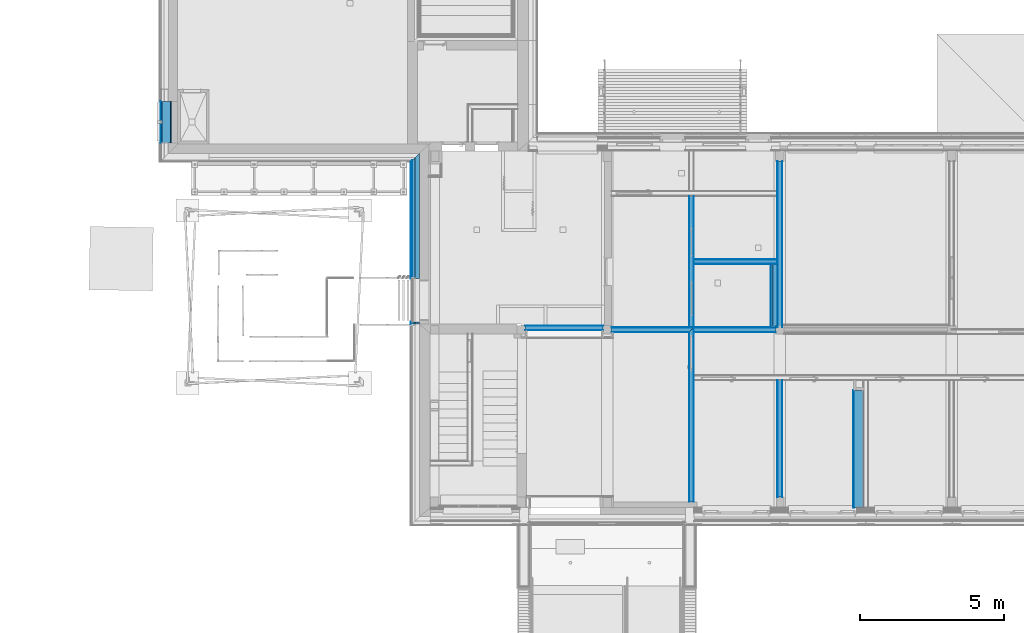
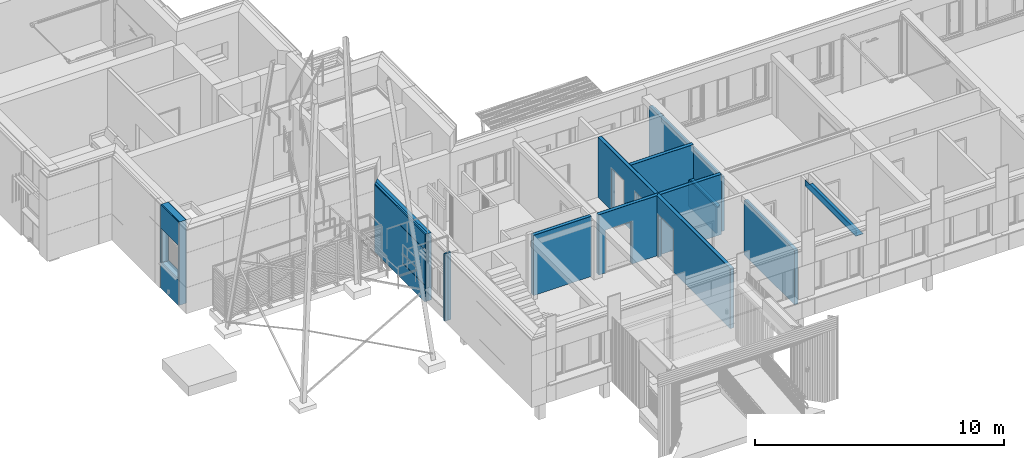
# One storey, part 31 of 418: 40 building element parts, 14 openings, 14 elements without a shape of their own.
"""IFC2X3 building model written with IfcOpenShell, lengths in millimetres."""

from ifc_helpers import new_model, entity, si_unit, converted_unit, derived_unit, money_unit, direction, frame, origin_with_axes, origin_2d_with_axis, place, context, subcontext, project, spatial, polyline, rectangle, outline, extrude, material, type_object, element, aggregate, save


model = new_model("IFC2X3")

# Units and contexts
model_context = context("Model", 3, precision=0.01, world=origin_with_axes(), true_north=direction((0.0, 1.0)))
body_context = subcontext(model_context, "Body", "Model", "MODEL_VIEW")
ifc_project = project(units=[si_unit("LENGTHUNIT", "METRE", prefix="MILLI"), si_unit("AREAUNIT", "SQUARE_METRE"), si_unit("VOLUMEUNIT", "CUBIC_METRE"), converted_unit("PLANEANGLEUNIT", "DEGREE", entity("IfcPlaneAngleMeasure", 0.0174532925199), si_unit("PLANEANGLEUNIT", "RADIAN"), dimensions=[0, 0, 0, 0, 0, 0, 0]), si_unit("SOLIDANGLEUNIT", "STERADIAN"), money_unit("EUR"), converted_unit("TIMEUNIT", "Year", entity("IfcTimeMeasure", 31556926.0), si_unit("TIMEUNIT", "SECOND"), dimensions=[0, 0, 1, 0, 0, 0, 0]), si_unit("MASSUNIT", "GRAM", prefix="KILO"), si_unit("THERMODYNAMICTEMPERATUREUNIT", "DEGREE_CELSIUS"), si_unit("LUMINOUSINTENSITYUNIT", "LUMEN"), si_unit("ENERGYUNIT", "JOULE", prefix="MEGA"), derived_unit("THERMALCONDUCTANCEUNIT", [(si_unit("POWERUNIT", "WATT"), 1), (si_unit("LENGTHUNIT", "METRE"), -1), (si_unit("THERMODYNAMICTEMPERATUREUNIT", "KELVIN"), -1)]), derived_unit("SPECIFICHEATCAPACITYUNIT", [(si_unit("ENERGYUNIT", "JOULE"), 1), (si_unit("MASSUNIT", "GRAM", prefix="KILO"), -1), (si_unit("THERMODYNAMICTEMPERATUREUNIT", "KELVIN"), -1)]), derived_unit("MASSDENSITYUNIT", [(si_unit("MASSUNIT", "GRAM", prefix="KILO"), 1), (si_unit("VOLUMEUNIT", "CUBIC_METRE"), -1)])], contexts=[model_context])

# Site, building, storey
site_placement = place(None, origin_with_axes())
site = spatial("IfcSite", under=ifc_project, at=site_placement, Name="Paldiski mnt 245/1, Tallinn, Harjumaa", CompositionType="COMPLEX")
building_placement = place(site_placement, origin_with_axes())
building = spatial("IfcBuilding", under=site, at=building_placement, Name="RKAS Hoone üldnimetus (kasutust iseloomustav) -> IFC Project Manager -> SOLIBRI", CompositionType="ELEMENT")
storey_placement = place(building_placement, origin_with_axes())
storey = spatial("IfcBuildingStorey", under=building, at=storey_placement, Name="Esimene korrus", CompositionType="ELEMENT", Elevation=0.0)

# Wall, building element parts
wall_type_1 = type_object("IfcWallType", Name="SS-04 170", PredefinedType="NOTDEFINED")
wall_1_placement = place(storey_placement, frame((-35440.0, -4045.0, 0.0), z_axis=(0.0, 0.0, 1.0), x_axis=(-1.0, 0.0, 0.0)))
wall_1 = element("IfcWall", 1, at=wall_1_placement, inside=storey, type_object=wall_type_1, Name="SS-04")
ifc_material_1 = material(Name="Krohv")
building_element_part_1_placement = place(wall_1_placement, origin_with_axes())
building_element_part_1 = element("IfcBuildingElementPart", 2, at=building_element_part_1_placement, material=ifc_material_1, Name="Krohv", context=body_context, shape_type="SweptSolid", body=[
    extrude(outline(polyline([(85.0, -10.0), (2990.00008941, -10.0), (2990.00008941, 0.0), (85.0, 0.0), (85.0, -10.0)])), origin_with_axes(), (0.0, 0.0, 1.0), 2950.0),
])
ifc_material_2 = material(Name="FIBO 5")
building_element_part_2_placement = place(wall_1_placement, origin_with_axes())
building_element_part_2 = element("IfcBuildingElementPart", 3, at=building_element_part_2_placement, material=ifc_material_2, Name="FIBO 5", context=body_context, shape_type="SweptSolid", body=[
    extrude(outline(polyline([(85.0, -160.0), (2990.00008941, -160.0), (2990.00008941, -10.0), (85.0, -10.0), (85.0, -160.0)])), origin_with_axes(), (0.0, 0.0, 1.0), 2950.0),
])
building_element_part_3_placement = place(wall_1_placement, origin_with_axes())
building_element_part_3 = element("IfcBuildingElementPart", 4, at=building_element_part_3_placement, material=ifc_material_1, Name="Krohv", context=body_context, shape_type="SweptSolid", body=[
    extrude(outline(polyline([(85.0, -170.0), (2990.00008941, -170.0), (2990.00008941, -160.0), (85.0, -160.0), (85.0, -170.0)])), origin_with_axes(), (0.0, 0.0, 1.0), 2950.0),
])
aggregate(wall_1, [building_element_part_1, building_element_part_2, building_element_part_3])

wall_2_placement = place(storey_placement, frame((-35590.0, -6330.0, 0.0), z_axis=(0.0, 0.0, 1.0), x_axis=(-1.0, 0.0, 0.0)))
wall_2 = element("IfcWall", 5, at=wall_2_placement, inside=storey, type_object=wall_type_1, Name="SS-04")
building_element_part_4_placement = place(wall_2_placement, origin_with_axes())
building_element_part_4 = element("IfcBuildingElementPart", 6, at=building_element_part_4_placement, material=ifc_material_1, Name="Krohv", context=body_context, shape_type="SweptSolid", body=[
    extrude(outline(polyline([(0.0, -85.0), (2840.00008941, -85.0), (2840.00008941, -75.0), (0.0, -75.0), (0.0, -85.0)])), origin_with_axes(), (0.0, 0.0, 1.0), 2950.0),
])
building_element_part_5_placement = place(wall_2_placement, origin_with_axes())
building_element_part_5 = element("IfcBuildingElementPart", 7, at=building_element_part_5_placement, material=ifc_material_2, Name="FIBO 5", context=body_context, shape_type="SweptSolid", body=[
    extrude(outline(polyline([(0.0, -75.0), (2840.00008941, -75.0), (2840.00008941, 75.0), (0.0, 75.0), (0.0, -75.0)])), origin_with_axes(), (0.0, 0.0, 1.0), 2950.0),
])
building_element_part_6_placement = place(wall_2_placement, origin_with_axes())
building_element_part_6 = element("IfcBuildingElementPart", 8, at=building_element_part_6_placement, material=ifc_material_1, Name="Krohv", context=body_context, shape_type="SweptSolid", body=[
    extrude(outline(polyline([(0.0, 75.0), (2840.00008941, 75.0), (2840.00008941, 85.0), (0.0, 85.0), (0.0, 75.0)])), origin_with_axes(), (0.0, 0.0, 1.0), 2950.0),
])
aggregate(wall_2, [building_element_part_4, building_element_part_5, building_element_part_6])

# Wall, opening, building element parts
wall_3_placement = place(storey_placement, frame((-38600.0000894, -12310.0840871, 0.0), z_axis=(0.0, 0.0, 1.0), x_axis=(0.0, 1.0, 0.0)))
wall_3 = element("IfcWall", 9, at=wall_3_placement, inside=storey, type_object=wall_type_1, Name="SS-04")
opening_1_placement = place(wall_3_placement, frame((5170.08413022, 0.0, 0.0), z_axis=(0.0, 0.0, 1.0), x_axis=(1.0, 0.0, 0.0)))
element("IfcOpeningElement", 10, at=opening_1_placement, cuts=wall_3, Name="TSU-01v", context=body_context, shape_type="SweptSolid", body=[
    extrude(rectangle(XDim=1250.0, YDim=2100.0, at=origin_2d_with_axis()), frame((0.0, -105.0, 1050.0), z_axis=(0.0, -1.0, 0.0), x_axis=(1.0, 0.0, 0.0)), (0.0, 0.0, -1.0), 275.0),
    extrude(rectangle(XDim=1250.0, YDim=2100.0, at=origin_2d_with_axis()), frame((0.0, -105.0, 1050.0), z_axis=(0.0, 1.0, 0.0), x_axis=(1.0, 0.0, 0.0)), (0.0, 0.0, -1.0), 235.0),
    extrude(rectangle(XDim=1324.0, YDim=2137.0, at=origin_2d_with_axis()), frame((0.0, 0.0, 1068.5), z_axis=(0.0, -1.0, 0.0), x_axis=(1.0, 0.0, 0.0)), (0.0, 0.0, -1.0), 235.0),
    extrude(rectangle(XDim=1324.0, YDim=2137.0, at=origin_2d_with_axis()), frame((0.0, -170.0, 1068.5), z_axis=(0.0, 1.0, 0.0), x_axis=(1.0, 0.0, 0.0)), (0.0, 0.0, -1.0), 235.0),
])
building_element_part_7_placement = place(wall_3_placement, origin_with_axes())
building_element_part_7 = element("IfcBuildingElementPart", 11, at=building_element_part_7_placement, material=ifc_material_1, Name="Krohv", context=body_context, shape_type="SweptSolid", body=[
    extrude(outline(polyline([(0.0, -10.0), (5905.08408706, -10.0), (5895.08408706, 0.0), (0.0, 0.0), (0.0, -10.0)])), origin_with_axes(), (0.0, 0.0, 1.0), 2950.0),
])
building_element_part_8_placement = place(wall_3_placement, origin_with_axes())
building_element_part_8 = element("IfcBuildingElementPart", 12, at=building_element_part_8_placement, material=ifc_material_2, Name="FIBO 5", context=body_context, shape_type="SweptSolid", body=[
    extrude(outline(polyline([(0.0, -160.0), (6055.08408706, -160.0), (5905.08408706, -10.0), (0.0, -10.0), (0.0, -160.0)])), origin_with_axes(), (0.0, 0.0, 1.0), 2950.0),
])
building_element_part_9_placement = place(wall_3_placement, origin_with_axes())
building_element_part_9 = element("IfcBuildingElementPart", 13, at=building_element_part_9_placement, material=ifc_material_1, Name="Krohv", context=body_context, shape_type="SweptSolid", body=[
    extrude(outline(polyline([(0.0, -170.0), (6065.08408706, -170.0), (6055.08408706, -160.0), (0.0, -160.0), (0.0, -170.0)])), origin_with_axes(), (0.0, 0.0, 1.0), 2950.0),
])
aggregate(wall_3, [building_element_part_7, building_element_part_8, building_element_part_9])

# Wall, building element parts
wall_4_placement = place(storey_placement, frame((-41590.0, -6180.0, 0.0), z_axis=(0.0, 0.0, 1.0), x_axis=(-1.0, 0.0, 0.0)))
wall_4 = element("IfcWall", 14, at=wall_4_placement, inside=storey, type_object=wall_type_1, Name="SS-04")
building_element_part_10_placement = place(wall_4_placement, origin_with_axes())
building_element_part_10 = element("IfcBuildingElementPart", 15, at=building_element_part_10_placement, material=ifc_material_1, Name="Krohv", context=body_context, shape_type="SweptSolid", body=[
    extrude(outline(polyline([(0.0, 0.0), (2700.00000184, 0.0), (2700.00000184, 10.0), (0.0, 10.0), (0.0, 0.0)])), origin_with_axes(), (0.0, 0.0, 1.0), 2950.0),
])
building_element_part_11_placement = place(wall_4_placement, origin_with_axes())
building_element_part_11 = element("IfcBuildingElementPart", 16, at=building_element_part_11_placement, material=ifc_material_2, Name="FIBO 5", context=body_context, shape_type="SweptSolid", body=[
    extrude(outline(polyline([(0.0, 10.0), (2700.00000184, 10.0), (2700.00000184, 160.0), (0.0, 160.0), (0.0, 10.0)])), origin_with_axes(), (0.0, 0.0, 1.0), 2950.0),
])
building_element_part_12_placement = place(wall_4_placement, origin_with_axes())
building_element_part_12 = element("IfcBuildingElementPart", 17, at=building_element_part_12_placement, material=ifc_material_1, Name="Krohv", context=body_context, shape_type="SweptSolid", body=[
    extrude(outline(polyline([(0.0, 160.0), (2700.00000184, 160.0), (2700.00000184, 170.0), (0.0, 170.0), (0.0, 160.0)])), origin_with_axes(), (0.0, 0.0, 1.0), 2950.0),
])
aggregate(wall_4, [building_element_part_10, building_element_part_11, building_element_part_12])

wall_5_placement = place(storey_placement, frame((-35440.0, -469.999999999, 0.0), z_axis=(0.0, 0.0, 1.0), x_axis=(0.0, -1.0, 0.0)))
wall_5 = element("IfcWall", 18, at=wall_5_placement, inside=storey, type_object=wall_type_1, Name="SS-04")
building_element_part_13_placement = place(wall_5_placement, origin_with_axes())
building_element_part_13 = element("IfcBuildingElementPart", 19, at=building_element_part_13_placement, material=ifc_material_1, Name="Krohv", context=body_context, shape_type="SweptSolid", body=[
    extrude(outline(polyline([(0.0, 75.0), (5770.08430108, 75.0), (5770.08430108, 85.0), (0.0, 85.0), (0.0, 75.0)])), origin_with_axes(), (0.0, 0.0, 1.0), 2670.00001851),
])
building_element_part_14_placement = place(wall_5_placement, origin_with_axes())
building_element_part_14 = element("IfcBuildingElementPart", 20, at=building_element_part_14_placement, material=ifc_material_2, Name="FIBO 5", context=body_context, shape_type="SweptSolid", body=[
    extrude(outline(polyline([(0.0, -75.0), (5770.08430108, -75.0), (5770.08430108, 75.0), (0.0, 75.0), (0.0, -75.0)])), origin_with_axes(), (0.0, 0.0, 1.0), 2670.00001851),
])
building_element_part_15_placement = place(wall_5_placement, origin_with_axes())
building_element_part_15 = element("IfcBuildingElementPart", 21, at=building_element_part_15_placement, material=ifc_material_1, Name="Krohv", context=body_context, shape_type="SweptSolid", body=[
    extrude(outline(polyline([(0.0, -85.0), (5770.08430108, -85.0), (5770.08430108, -75.0), (0.0, -75.0), (0.0, -85.0)])), origin_with_axes(), (0.0, 0.0, 1.0), 2670.00001851),
])
aggregate(wall_5, [building_element_part_13, building_element_part_14, building_element_part_15])

wall_6_placement = place(storey_placement, frame((-35440.0, -12150.0840871, 0.0), z_axis=(0.0, 0.0, 1.0), x_axis=(0.0, 1.0, 0.0)))
wall_6 = element("IfcWall", 22, at=wall_6_placement, inside=storey, type_object=wall_type_1, Name="SS-04")
building_element_part_16_placement = place(wall_6_placement, origin_with_axes())
building_element_part_16 = element("IfcBuildingElementPart", 23, at=building_element_part_16_placement, material=ifc_material_1, Name="Krohv", context=body_context, shape_type="SweptSolid", body=[
    extrude(outline(polyline([(0.0, 75.0), (4065.08408706, 75.0), (4065.08408706, 85.0), (0.0, 85.0), (0.0, 75.0)])), origin_with_axes(), (0.0, 0.0, 1.0), 2670.0),
])
building_element_part_17_placement = place(wall_6_placement, origin_with_axes())
building_element_part_17 = element("IfcBuildingElementPart", 24, at=building_element_part_17_placement, material=ifc_material_2, Name="FIBO 5", context=body_context, shape_type="SweptSolid", body=[
    extrude(outline(polyline([(0.0, -75.0), (4065.08408706, -75.0), (4065.08408706, 75.0), (0.0, 75.0), (0.0, -75.0)])), origin_with_axes(), (0.0, 0.0, 1.0), 2670.0),
])
building_element_part_18_placement = place(wall_6_placement, origin_with_axes())
building_element_part_18 = element("IfcBuildingElementPart", 25, at=building_element_part_18_placement, material=ifc_material_1, Name="Krohv", context=body_context, shape_type="SweptSolid", body=[
    extrude(outline(polyline([(0.0, -85.0), (4065.08408706, -85.0), (4065.08408706, -75.0), (0.0, -75.0), (0.0, -85.0)])), origin_with_axes(), (0.0, 0.0, 1.0), 2670.0),
])
aggregate(wall_6, [building_element_part_16, building_element_part_17, building_element_part_18])

wall_type_2 = type_object("IfcWallType", Name="Karniis 25", PredefinedType="NOTDEFINED")
wall_7_placement = place(storey_placement, frame((-32885.0, -12512.0843011, 2649.99999911), z_axis=(0.0, 0.0, 1.0), x_axis=(0.0, 1.0, 0.0)))
wall_7 = element("IfcWall", 26, at=wall_7_placement, inside=storey, type_object=wall_type_2, Name="Sahti sein")
ifc_material_3 = material(Name="Kipsplaat Knauf GKF vm")
building_element_part_19_placement = place(wall_7_placement, origin_with_axes())
building_element_part_19 = element("IfcBuildingElementPart", 27, at=building_element_part_19_placement, material=ifc_material_3, Name="Kipsplaat Knauf GKF vm", context=body_context, shape_type="SweptSolid", body=[
    extrude(outline(polyline([(0.0, -25.0), (4077.08430108, -25.0), (4077.08430108, -12.5), (0.0, -12.5), (0.0, -25.0)])), origin_with_axes(), (0.0, 0.0, 1.0), 300.000000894),
])
building_element_part_20_placement = place(wall_7_placement, origin_with_axes())
building_element_part_20 = element("IfcBuildingElementPart", 28, at=building_element_part_20_placement, material=ifc_material_3, Name="Kipsplaat Knauf GKF vm", context=body_context, shape_type="SweptSolid", body=[
    extrude(outline(polyline([(0.0, -12.5), (4077.08430108, -12.5), (4077.08430108, 0.0), (0.0, 0.0), (0.0, -12.5)])), origin_with_axes(), (0.0, 0.0, 1.0), 300.000000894),
])
aggregate(wall_7, [building_element_part_19, building_element_part_20])

# Wall, openings, building element parts
wall_type_3 = type_object("IfcWallType", Name="VS-08.1_uued_kihid 370", PredefinedType="NOTDEFINED")
wall_8_placement = place(storey_placement, frame((-56609.9999767, 1619.99992126, 0.0), z_axis=(0.0, 0.0, 1.0), x_axis=(0.0, -1.0, 0.0)))
wall_8 = element("IfcWall", 29, at=wall_8_placement, inside=storey, type_object=wall_type_3, Name="VS-08.1")
opening_2_placement = place(wall_8_placement, frame((719.999960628, 0.0, 1240.0), z_axis=(0.0, 0.0, 1.0), x_axis=(1.0, 0.0, 0.0)))
element("IfcOpeningElement", 30, at=opening_2_placement, cuts=wall_8, Name="VR-01", context=body_context, shape_type="SweptSolid", body=[
    extrude(rectangle(XDim=1339.99992126, YDim=1700.0, at=origin_2d_with_axis()), frame((0.0, -150.0, 850.0), z_axis=(0.0, -1.0, 0.0), x_axis=(-1.0, 0.0, 0.0)), (0.0, 0.0, 1.0), 590.0),
    extrude(rectangle(XDim=1339.99992126, YDim=1700.0, at=origin_2d_with_axis()), frame((0.0, -150.0, 850.0), z_axis=(0.0, 1.0, 0.0), x_axis=(-1.0, 0.0, 0.0)), (0.0, 0.0, 1.0), 520.0),
    extrude(rectangle(XDim=1339.99992126, YDim=1700.0, at=origin_2d_with_axis()), frame((0.0, 0.0, 850.0), z_axis=(0.0, 1.0, 0.0), x_axis=(-1.0, 0.0, 0.0)), (0.0, 0.0, 1.0), 590.0),
])
opening_3_placement = place(wall_8_placement, frame((725.0, 0.0, 0.0), z_axis=(0.0, 0.0, 1.0), x_axis=(1.0, 0.0, 0.0)))
element("IfcOpeningElement", 31, at=opening_3_placement, cuts=wall_8, Name="Cembrit fassaadiplaadi vuuk", context=body_context, shape_type="SweptSolid", body=[
    extrude(outline(polyline([(-4.00000000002, 0.0), (3.99999999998, 0.0), (3.99999999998, 4090.0), (-4.00000000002, 4090.0), (-4.00000000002, 0.0)])), frame((0.0, -362.0, 0.0), z_axis=(0.0, -1.0, 0.0), x_axis=(1.0, 0.0, 0.0)), (0.0, 0.0, 1.0), 378.0),
])
ifc_material_4 = material(Name="Cembrit_C060")
building_element_part_21_placement = place(wall_8_placement, origin_with_axes())
building_element_part_21 = element("IfcBuildingElementPart", 32, at=building_element_part_21_placement, material=ifc_material_4, Name="Cembrit_C060", context=body_context, shape_type="SweptSolid", body=[
    extrude(outline(polyline([(0.0, -370.0), (1450.0, -370.0), (1450.0, -362.0), (0.0, -362.0), (0.0, -370.0)])), origin_with_axes(), (0.0, 0.0, 1.0), 4090.0),
])
ifc_material_5 = material(Name="VKR-06_Õhkvahe")
building_element_part_22_placement = place(wall_8_placement, origin_with_axes())
building_element_part_22 = element("IfcBuildingElementPart", 33, at=building_element_part_22_placement, material=ifc_material_5, Name="VKR-06_Õhkvahe", context=body_context, shape_type="SweptSolid", body=[
    extrude(outline(polyline([(0.0, -362.0), (1450.0, -362.0), (1450.0, -320.0), (0.0, -320.0), (0.0, -362.0)])), origin_with_axes(), (0.0, 0.0, 1.0), 4090.0),
])
ifc_material_6 = material(Name="Kingspan Kooltherm")
building_element_part_23_placement = place(wall_8_placement, origin_with_axes())
building_element_part_23 = element("IfcBuildingElementPart", 34, at=building_element_part_23_placement, material=ifc_material_6, Name="Kingspan Kooltherm", context=body_context, shape_type="SweptSolid", body=[
    extrude(outline(polyline([(0.0, -320.0), (1450.0, -320.0), (1450.0, -20.0), (0.0, -20.0), (0.0, -320.0)])), origin_with_axes(), (0.0, 0.0, 1.0), 4090.0),
])
ifc_material_7 = material(Name="Tasanduskrohv")
building_element_part_24_placement = place(wall_8_placement, origin_with_axes())
building_element_part_24 = element("IfcBuildingElementPart", 35, at=building_element_part_24_placement, material=ifc_material_7, Name="Tasanduskrohv", context=body_context, shape_type="SweptSolid", body=[
    extrude(outline(polyline([(0.0, -20.0), (1450.0, -20.0), (1450.0, 0.0), (0.0, 0.0), (0.0, -20.0)])), origin_with_axes(), (0.0, 0.0, 1.0), 4090.0),
])
aggregate(wall_8, [building_element_part_21, building_element_part_22, building_element_part_23, building_element_part_24])

# Proxy, building element parts
building_element_proxy_type = type_object("IfcBuildingElementProxyType", Name="WC-tagasein 68", PredefinedType="NOTDEFINED")
proxy_placement = place(storey_placement, frame((-35765.0, -6245.00000171, 1300.0), z_axis=(0.0, 0.0, 1.0), x_axis=(1.0, 0.0, 0.0)))
proxy = element("IfcBuildingElementProxy", 36, at=proxy_placement, inside=storey, type_object=building_element_proxy_type, Name="AP-05")
ifc_material_8 = material(Name="SKR-01_Õhkvahe - Raam")
building_element_part_25_placement = place(proxy_placement, origin_with_axes())
building_element_part_25 = element("IfcBuildingElementPart", 37, at=building_element_part_25_placement, material=ifc_material_8, Name="SKR-01_Õhkvahe - Raam", context=body_context, shape_type="SweptSolid", body=[
    extrude(outline(polyline([(0.0, 0.0), (175.000000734, 1.97759231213e-06), (175.0, 65.0000017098), (240.0, 64.9999997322), (240.0, 2200.00000171), (0.0, 2200.00000171), (0.0, 0.0)])), frame((0.0, 0.0, -68.0), z_axis=(0.0, 0.0, 1.0), x_axis=(1.0, 0.0, 0.0)), (0.0, 0.0, 1.0), 50.0),
])
ifc_material_9 = material(Name="SKR-04_Puitplaat")
building_element_part_26_placement = place(proxy_placement, origin_with_axes())
building_element_part_26 = element("IfcBuildingElementPart", 38, at=building_element_part_26_placement, material=ifc_material_9, Name="SKR-04_Puitplaat", context=body_context, shape_type="SweptSolid", body=[
    extrude(outline(polyline([(0.0, 0.0), (175.000000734, 1.97759231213e-06), (175.0, 65.0000017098), (240.0, 64.9999997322), (240.0, 2200.00000171), (0.0, 2200.00000171), (0.0, 0.0)])), frame((0.0, 0.0, -18.0), z_axis=(0.0, 0.0, 1.0), x_axis=(1.0, 0.0, 0.0)), (0.0, 0.0, 1.0), 18.0),
])
aggregate(proxy, [building_element_part_25, building_element_part_26])

# Wall, openings, building element parts
wall_9_placement = place(storey_placement, frame((-38430.0000894, -1675.0, 0.0), z_axis=(0.0, 0.0, 1.0), x_axis=(0.0, -1.0, 0.0)))
wall_9 = element("IfcWall", 39, at=wall_9_placement, inside=storey, type_object=wall_type_1, Name="SS-04")
opening_4_placement = place(wall_9_placement, frame((3570.0, 0.0, 0.0), z_axis=(0.0, 0.0, 1.0), x_axis=(1.0, 0.0, 0.0)))
element("IfcOpeningElement", 40, at=opening_4_placement, cuts=wall_9, Name="SU-04p", context=body_context, shape_type="SweptSolid", body=[
    extrude(rectangle(XDim=1200.0, YDim=2100.0, at=origin_2d_with_axis()), frame((0.0, -105.0, 1050.0), z_axis=(0.0, 1.0, 0.0), x_axis=(1.0, 0.0, 0.0)), (0.0, 0.0, 1.0), 275.0),
    extrude(rectangle(XDim=1200.0, YDim=2100.0, at=origin_2d_with_axis()), frame((0.0, -105.0, 1050.0), z_axis=(0.0, -1.0, 0.0), x_axis=(1.0, 0.0, 0.0)), (0.0, 0.0, 1.0), 235.0),
    extrude(rectangle(XDim=1274.0, YDim=2137.0, at=origin_2d_with_axis()), frame((0.0, 0.0, 1068.5), z_axis=(0.0, 1.0, 0.0), x_axis=(1.0, 0.0, 0.0)), (0.0, 0.0, 1.0), 235.0),
    extrude(rectangle(XDim=1274.0, YDim=2137.0, at=origin_2d_with_axis()), frame((0.0, -170.0, 1068.5), z_axis=(0.0, -1.0, 0.0), x_axis=(1.0, 0.0, 0.0)), (0.0, 0.0, 1.0), 235.0),
])
opening_5_placement = place(wall_9_placement, frame((1600.0, 0.0, 0.0), z_axis=(0.0, 0.0, 1.0), x_axis=(1.0, 0.0, 0.0)))
element("IfcOpeningElement", 41, at=opening_5_placement, cuts=wall_9, Name="SU-05p", context=body_context, shape_type="SweptSolid", body=[
    extrude(rectangle(XDim=1000.0, YDim=2100.0, at=origin_2d_with_axis()), frame((0.0, -105.0, 1050.0), z_axis=(0.0, 1.0, 0.0), x_axis=(1.0, 0.0, 0.0)), (0.0, 0.0, 1.0), 275.0),
    extrude(rectangle(XDim=1000.0, YDim=2100.0, at=origin_2d_with_axis()), frame((0.0, -105.0, 1050.0), z_axis=(0.0, -1.0, 0.0), x_axis=(1.0, 0.0, 0.0)), (0.0, 0.0, 1.0), 235.0),
    extrude(rectangle(XDim=1074.0, YDim=2137.0, at=origin_2d_with_axis()), frame((0.0, 0.0, 1068.5), z_axis=(0.0, 1.0, 0.0), x_axis=(1.0, 0.0, 0.0)), (0.0, 0.0, 1.0), 235.0),
    extrude(rectangle(XDim=1074.0, YDim=2137.0, at=origin_2d_with_axis()), frame((0.0, -170.0, 1068.5), z_axis=(0.0, -1.0, 0.0), x_axis=(1.0, 0.0, 0.0)), (0.0, 0.0, 1.0), 235.0),
])
building_element_part_27_placement = place(wall_9_placement, origin_with_axes())
building_element_part_27 = element("IfcBuildingElementPart", 42, at=building_element_part_27_placement, material=ifc_material_1, Name="Krohv", context=body_context, shape_type="SweptSolid", body=[
    extrude(outline(polyline([(0.0, -10.0), (4570.0, -10.0), (4570.0, 0.0), (0.0, 0.0), (0.0, -10.0)])), origin_with_axes(), (0.0, 0.0, 1.0), 2950.0),
])
building_element_part_28_placement = place(wall_9_placement, origin_with_axes())
building_element_part_28 = element("IfcBuildingElementPart", 43, at=building_element_part_28_placement, material=ifc_material_2, Name="FIBO 5", context=body_context, shape_type="SweptSolid", body=[
    extrude(outline(polyline([(0.0, -160.0), (4570.0, -160.0), (4570.0, -10.0), (0.0, -10.0), (0.0, -160.0)])), origin_with_axes(), (0.0, 0.0, 1.0), 2950.0),
])
building_element_part_29_placement = place(wall_9_placement, origin_with_axes())
building_element_part_29 = element("IfcBuildingElementPart", 44, at=building_element_part_29_placement, material=ifc_material_1, Name="Krohv", context=body_context, shape_type="SweptSolid", body=[
    extrude(outline(polyline([(0.0, -170.0), (4570.0, -170.0), (4570.0, -160.0), (0.0, -160.0), (0.0, -170.0)])), origin_with_axes(), (0.0, 0.0, 1.0), 2950.0),
])
aggregate(wall_9, [building_element_part_27, building_element_part_28, building_element_part_29])

# Plate, building element parts
plate_type = type_object("IfcPlateType", Name="Karniis 25", PredefinedType="NOTDEFINED")
plate_placement = place(storey_placement, frame((-32885.0, -12510.0843011, 2650.0), z_axis=(0.0, 0.0, 1.0), x_axis=(1.0, 0.0, 0.0)))
plate = element("IfcPlate", 45, at=plate_placement, inside=storey, type_object=plate_type, Name="AP-03")
building_element_part_30_placement = place(plate_placement, origin_with_axes())
building_element_part_30 = element("IfcBuildingElementPart", 46, at=building_element_part_30_placement, material=ifc_material_3, Name="Kipsplaat Knauf GKF vm", context=body_context, shape_type="SweptSolid", body=[
    extrude(outline(polyline([(0.0, 0.0), (350.0, 0.0), (350.0, 4075.08430108), (0.0, 4075.08430108), (0.0, 0.0)])), origin_with_axes(), (0.0, 0.0, 1.0), 12.5),
])
building_element_part_31_placement = place(plate_placement, origin_with_axes())
building_element_part_31 = element("IfcBuildingElementPart", 47, at=building_element_part_31_placement, material=ifc_material_3, Name="Kipsplaat Knauf GKF vm", context=body_context, shape_type="SweptSolid", body=[
    extrude(outline(polyline([(0.0, 0.0), (350.0, 0.0), (350.0, 4075.08430108), (0.0, 4075.08430108), (0.0, 0.0)])), frame((0.0, 0.0, 12.5), z_axis=(0.0, 0.0, 1.0), x_axis=(1.0, 0.0, 0.0)), (0.0, 0.0, 1.0), 12.5),
])
aggregate(plate, [building_element_part_30, building_element_part_31])

# Wall, openings, building element parts
wall_type_4 = type_object("IfcWallType", Name="VS-03_uued_kihid 300", PredefinedType="NOTDEFINED")
wall_10_placement = place(storey_placement, frame((-47980.0, -6130.08408706, 0.0), z_axis=(0.0, 0.0, 1.0), x_axis=(0.0, 1.0, 0.0)))
wall_10 = element("IfcWall", 48, at=wall_10_placement, inside=storey, type_object=wall_type_4, Name="VS-03")
opening_6_placement = place(wall_10_placement, frame((1584.0, 0.0, 650.0), z_axis=(0.0, 0.0, 1.0), x_axis=(1.0, 0.0, 0.0)))
element("IfcOpeningElement", 49, at=opening_6_placement, cuts=wall_10, Name="Cembrit fassaadiplaadi vuuk", context=body_context, shape_type="SweptSolid", body=[
    extrude(outline(polyline([(-4.0, 0.0), (4.0, 0.0), (4.0, 2000.0), (-4.0, 2000.0), (-4.0, 0.0)])), frame((0.0, 292.0, 0.0), z_axis=(0.0, 1.0, 0.0), x_axis=(-1.0, 0.0, 0.0)), (0.0, 0.0, 1.0), 308.0),
])
opening_7_placement = place(wall_10_placement, frame((2784.0, 0.0, 0.0), z_axis=(0.0, 0.0, 1.0), x_axis=(1.0, 0.0, 0.0)))
element("IfcOpeningElement", 50, at=opening_7_placement, cuts=wall_10, Name="Cembrit fassaadiplaadi vuuk", context=body_context, shape_type="SweptSolid", body=[
    extrude(outline(polyline([(-4.0, 0.0), (4.0, 0.0), (4.0, 3300.0), (-4.0, 3300.0), (-4.0, 0.0)])), frame((0.0, 292.0, 0.0), z_axis=(0.0, 1.0, 0.0), x_axis=(-1.0, 0.0, 0.0)), (0.0, 0.0, 1.0), 308.0),
])
opening_8_placement = place(wall_10_placement, frame((3984.0, 0.0, 0.0), z_axis=(0.0, 0.0, 1.0), x_axis=(1.0, 0.0, 0.0)))
element("IfcOpeningElement", 51, at=opening_8_placement, cuts=wall_10, Name="Cembrit fassaadiplaadi vuuk", context=body_context, shape_type="SweptSolid", body=[
    extrude(outline(polyline([(-4.0, 0.0), (4.0, 0.0), (4.0, 3300.0), (-4.0, 3300.0), (-4.0, 0.0)])), frame((0.0, 292.0, 0.0), z_axis=(0.0, 1.0, 0.0), x_axis=(-1.0, 0.0, 0.0)), (0.0, 0.0, 1.0), 308.0),
])
opening_9_placement = place(wall_10_placement, frame((5184.0, -1.20792265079e-10, 0.0), z_axis=(0.0, 0.0, 1.0), x_axis=(1.0, 0.0, 0.0)))
element("IfcOpeningElement", 52, at=opening_9_placement, cuts=wall_10, Name="Cembrit fassaadiplaadi vuuk", context=body_context, shape_type="SweptSolid", body=[
    extrude(outline(polyline([(-4.0, 0.0), (4.0, 0.0), (4.0, 3300.0), (-4.0, 3300.0), (-4.0, 0.0)])), frame((0.0, 292.0, 0.0), z_axis=(0.0, 1.0, 0.0), x_axis=(-1.0, 0.0, 0.0)), (0.0, 0.0, 1.0), 308.0),
])
opening_10_placement = place(wall_10_placement, frame((76.0, 0.0, 0.0), z_axis=(0.0, 0.0, 1.0), x_axis=(1.0, 0.0, 0.0)))
element("IfcOpeningElement", 53, at=opening_10_placement, cuts=wall_10, Name="Cembrit fassaadiplaadi vuuk", context=body_context, shape_type="SweptSolid", body=[
    extrude(outline(polyline([(-4.0, 0.0), (4.0, 0.0), (4.0, 3300.0), (-4.0, 3300.0), (-4.0, 0.0)])), frame((0.0, 292.0, 0.0), z_axis=(0.0, 1.0, 0.0), x_axis=(-1.0, 0.0, 0.0)), (0.0, 0.0, 1.0), 308.0),
])
opening_11_placement = place(wall_10_placement, frame((2724.08408706, 0.0, 2552.0), z_axis=(0.0, 0.0, 1.0), x_axis=(1.0, 0.0, 0.0)))
element("IfcOpeningElement", 54, at=opening_11_placement, cuts=wall_10, Name="Cembrit fassaadiplaadi vuuk", context=body_context, shape_type="SweptSolid", body=[
    extrude(outline(polyline([(-2924.0, 0.0), (2924.0, 0.0), (2924.0, 8.0), (-2924.0, 8.0), (-2924.0, 0.0)])), frame((0.0, 292.0, 0.0), z_axis=(0.0, 1.0, 0.0), x_axis=(-1.0, 0.0, 0.0)), (0.0, 0.0, 1.0), 308.0),
])
opening_12_placement = place(wall_10_placement, frame((2824.04204353, 0.0, 810.0), z_axis=(0.0, 0.0, 1.0), x_axis=(1.0, 0.0, 0.0)))
element("IfcOpeningElement", 55, at=opening_12_placement, cuts=wall_10, Name="Cembrit fassaadiplaadi vuuk", context=body_context, shape_type="SweptSolid", body=[
    extrude(outline(polyline([(-2824.04204353, 0.0), (2824.04204353, 0.0), (2824.04204353, 8.0), (-2824.04204353, 8.0), (-2824.04204353, 0.0)])), frame((0.0, 292.0, 0.0), z_axis=(0.0, 1.0, 0.0), x_axis=(-1.0, 0.0, 0.0)), (0.0, 0.0, 1.0), 308.0),
])
opening_13_placement = place(wall_10_placement, frame((829.99998236, 0.0, 0.0), z_axis=(0.0, 0.0, 1.0), x_axis=(1.0, 0.0, 0.0)))
element("IfcOpeningElement", 56, at=opening_13_placement, cuts=wall_10, Name="Cembrit fassaadiplaadi vuuk", context=body_context, shape_type="SweptSolid", body=[
    extrude(outline(polyline([(-749.999936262, 0.0), (749.999936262, 0.0), (749.999936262, 4090.0), (-749.999936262, 4090.0), (-749.999936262, 0.0)])), frame((0.0, 0.0, 0.0), z_axis=(0.0, 1.0, 0.0), x_axis=(-1.0, 0.0, 0.0)), (0.0, 0.0, 1.0), 600.0),
])
ifc_material_10 = material(Name="Cembrit_C020")
building_element_part_32_placement = place(wall_10_placement, origin_with_axes())
building_element_part_32 = element("IfcBuildingElementPart", 57, at=building_element_part_32_placement, material=ifc_material_10, Name="Cembrit_C020", context=body_context, shape_type="SweptSolid", body=[
    extrude(outline(polyline([(0.0, 292.0), (5648.08408706, 292.0), (5640.08408706, 300.0), (0.0, 300.0), (0.0, 292.0)])), origin_with_axes(), (0.0, 0.0, 1.0), 3300.0),
])
building_element_part_33_placement = place(wall_10_placement, origin_with_axes())
building_element_part_33 = element("IfcBuildingElementPart", 58, at=building_element_part_33_placement, material=ifc_material_5, Name="VKR-06_Õhkvahe", context=body_context, shape_type="SweptSolid", body=[
    extrude(outline(polyline([(0.0, 250.0), (5690.08408706, 250.0), (5648.08408706, 292.0), (0.0, 292.0), (0.0, 250.0)])), origin_with_axes(), (0.0, 0.0, 1.0), 3300.0),
])
building_element_part_34_placement = place(wall_10_placement, origin_with_axes())
building_element_part_34 = element("IfcBuildingElementPart", 59, at=building_element_part_34_placement, material=ifc_material_6, Name="Kingspan Kooltherm", context=body_context, shape_type="SweptSolid", body=[
    extrude(outline(polyline([(0.0, 150.0), (5790.08408706, 150.0), (5690.08408706, 250.0), (0.0, 250.0), (0.0, 150.0)])), origin_with_axes(), (0.0, 0.0, 1.0), 3300.0),
])
building_element_part_35_placement = place(wall_10_placement, origin_with_axes())
building_element_part_35 = element("IfcBuildingElementPart", 60, at=building_element_part_35_placement, material=ifc_material_6, Name="Kingspan Kooltherm", context=body_context, shape_type="SweptSolid", body=[
    extrude(outline(polyline([(0.0, 0.0), (5940.08408706, 0.0), (5790.08408706, 150.0), (0.0, 150.0), (0.0, 0.0)])), origin_with_axes(), (0.0, 0.0, 1.0), 3300.0),
])
aggregate(wall_10, [building_element_part_32, building_element_part_33, building_element_part_34, building_element_part_35])

# Wall, building element parts
wall_type_5 = type_object("IfcWallType", Name="WC-tagasein 68", PredefinedType="NOTDEFINED")
wall_11_placement = place(storey_placement, frame((-35765.0, -4045.0, 0.0), z_axis=(0.0, 0.0, 1.0), x_axis=(0.0, -1.0, 0.0)))
wall_11 = element("IfcWall", 61, at=wall_11_placement, inside=storey, type_object=wall_type_5, Name="VS-05")
building_element_part_36_placement = place(wall_11_placement, origin_with_axes())
building_element_part_36 = element("IfcBuildingElementPart", 62, at=building_element_part_36_placement, material=ifc_material_8, Name="SKR-01_Õhkvahe - Raam", context=body_context, shape_type="SweptSolid", body=[
    extrude(outline(polyline([(0.0, 18.0), (2200.0, 18.0), (2200.0, 68.0), (0.0, 68.0), (0.0, 18.0)])), origin_with_axes(), (0.0, 0.0, 1.0), 1300.0),
])
building_element_part_37_placement = place(wall_11_placement, origin_with_axes())
building_element_part_37 = element("IfcBuildingElementPart", 63, at=building_element_part_37_placement, material=ifc_material_9, Name="SKR-04_Puitplaat", context=body_context, shape_type="SweptSolid", body=[
    extrude(outline(polyline([(0.0, 0.0), (2200.0, 0.0), (2200.0, 18.0), (0.0, 18.0), (0.0, 0.0)])), origin_with_axes(), (0.0, 0.0, 1.0), 1300.0),
])
aggregate(wall_11, [building_element_part_36, building_element_part_37])

# Wall, opening, building element parts
wall_12_placement = place(storey_placement, frame((-38600.0000894, -6330.0, 0.0), z_axis=(0.0, 0.0, 1.0), x_axis=(-1.0, 0.0, 0.0)))
wall_12 = element("IfcWall", 64, at=wall_12_placement, inside=storey, type_object=wall_type_1, Name="SS-04")
opening_14_placement = place(wall_12_placement, frame((1764.99988395, 0.0, 0.0), z_axis=(0.0, 0.0, 1.0), x_axis=(1.0, 0.0, 0.0)))
element("IfcOpeningElement", 65, at=opening_14_placement, cuts=wall_12, Name="TSU-01p", context=body_context, shape_type="SweptSolid", body=[
    extrude(rectangle(XDim=1250.0, YDim=2100.0, at=origin_2d_with_axis()), frame((0.0, -20.0, 1050.0), z_axis=(0.0, 1.0, 0.0), x_axis=(1.0, 0.0, 0.0)), (0.0, 0.0, 1.0), 275.0),
    extrude(rectangle(XDim=1250.0, YDim=2100.0, at=origin_2d_with_axis()), frame((0.0, -20.0, 1050.0), z_axis=(0.0, -1.0, 0.0), x_axis=(1.0, 0.0, 0.0)), (0.0, 0.0, 1.0), 235.0),
    extrude(rectangle(XDim=1324.0, YDim=2137.0, at=origin_2d_with_axis()), frame((0.0, 85.0, 1068.5), z_axis=(0.0, 1.0, 0.0), x_axis=(1.0, 0.0, 0.0)), (0.0, 0.0, 1.0), 235.0),
    extrude(rectangle(XDim=1324.0, YDim=2137.0, at=origin_2d_with_axis()), frame((0.0, -85.0, 1068.5), z_axis=(0.0, -1.0, 0.0), x_axis=(1.0, 0.0, 0.0)), (0.0, 0.0, 1.0), 235.0),
])
building_element_part_38_placement = place(wall_12_placement, origin_with_axes())
building_element_part_38 = element("IfcBuildingElementPart", 66, at=building_element_part_38_placement, material=ifc_material_1, Name="Krohv", context=body_context, shape_type="SweptSolid", body=[
    extrude(outline(polyline([(-170.0, -85.0), (2689.99991059, -85.0), (2689.99991059, -75.0), (-160.0, -75.0), (-170.0, -85.0)])), origin_with_axes(), (0.0, 0.0, 1.0), 2950.0),
])
building_element_part_39_placement = place(wall_12_placement, origin_with_axes())
building_element_part_39 = element("IfcBuildingElementPart", 67, at=building_element_part_39_placement, material=ifc_material_2, Name="FIBO 5", context=body_context, shape_type="SweptSolid", body=[
    extrude(outline(polyline([(-160.0, -75.0), (2689.99991059, -75.0), (2689.99991059, 75.0), (-10.0, 75.0), (-160.0, -75.0)])), origin_with_axes(), (0.0, 0.0, 1.0), 2950.0),
])
building_element_part_40_placement = place(wall_12_placement, origin_with_axes())
building_element_part_40 = element("IfcBuildingElementPart", 68, at=building_element_part_40_placement, material=ifc_material_1, Name="Krohv", context=body_context, shape_type="SweptSolid", body=[
    extrude(outline(polyline([(-10.0, 75.0), (2689.99991059, 75.0), (2689.99991059, 85.0), (0.0, 85.0), (-10.0, 75.0)])), origin_with_axes(), (0.0, 0.0, 1.0), 2950.0),
])
aggregate(wall_12, [building_element_part_38, building_element_part_39, building_element_part_40])

save(model, "model.ifc")
